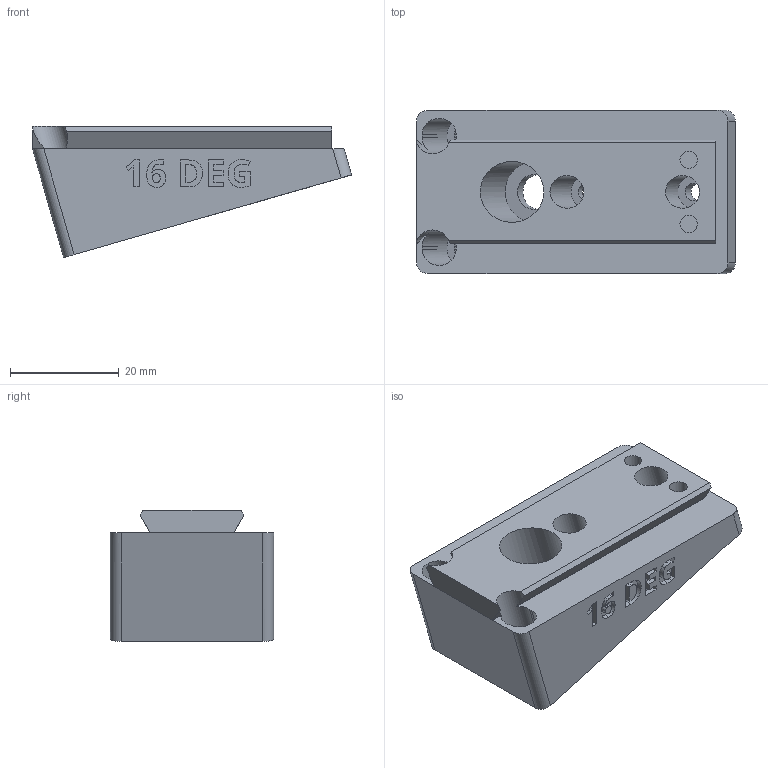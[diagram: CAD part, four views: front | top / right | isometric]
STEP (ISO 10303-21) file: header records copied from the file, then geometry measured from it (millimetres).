
FILE_DESCRIPTION(/* description */ ('STEP AP242 Edition 2','CAx-IF Rec.Pracs.---Representation and Presentation of Product Manufacturing Information (PMI)---4.0---2014-10-13','CAx-IF Rec.Pracs.---3D Tessellated Geometry---0.4---2014-09-14','2;1','CAx-IF Rec.Pracs.---User Defined Attributes---1.5---2016-08-15'),/* implementation_level */ '2;1');
FILE_NAME(/* name */ 'Camera Wedges - CAMERA MOUNTING WEDGE, POS, 16 DEG',/* time_stamp */ '2026-07-08T20:37:58Z',/* author */ (''),/* organization */ (''),/* preprocessor_version */ 'ST-DEVELOPER v20',/* originating_system */ 'ONSHAPE BY PTC INC, 1.217',/* authorisation */ ' ');
FILE_SCHEMA (('AP242_MANAGED_MODEL_BASED_3D_ENGINEERING_MIM_LF { 1 0 10303 442 3 1 4 }'));
Length unit declared in the file: metre
Products named in the file (1): CAMERA MOUNTING WEDGE, POS, 16 DEG
Bounding box: 58.59 x 30 x 24.07 mm (x, y, z)
Volume: 20757.3 mm3; surface area: 8374.3 mm2
Topology: 1 solids, 1 shells, 247 faces, 676 edges, 451 vertices
Faces by surface type: plane 135, bspline 70, cylinder 42
Full cylindrical faces by diameter (mm): 3.2 x4, 6 x2, 6.4 x1, 11.2 x1
Entity records: 8009 total; most frequent: CARTESIAN_POINT 2131, ORIENTED_EDGE 1330, DIRECTION 977, EDGE_CURVE 665, VERTEX_POINT 448, LINE 429, VECTOR 429, EDGE_LOOP 285
